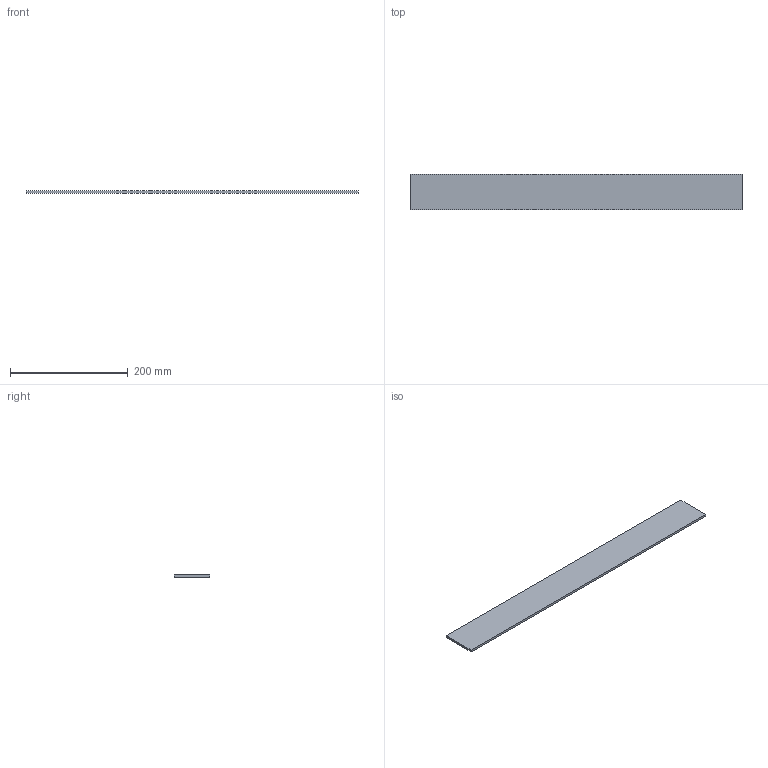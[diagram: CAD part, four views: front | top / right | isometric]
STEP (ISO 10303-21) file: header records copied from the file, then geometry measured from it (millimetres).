
FILE_DESCRIPTION (( 'STEP AP214' ), '1' );
FILE_NAME ('_Variowing Glasdekor NL600.step', '2010-07-14T13:33:38', ( 'grass' ), ( '' ), 'SwSTEP 2.0', 'SolidWorks 2010', '' );
FILE_SCHEMA (( 'AUTOMOTIVE_DESIGN' ));
Length unit declared in the file: millimetre
Products named in the file (1): _Variowing Glasdekor NL600
Bounding box: 565 x 60 x 4 mm (x, y, z)
Volume: 135600 mm3; surface area: 72800 mm2
Topology: 1 solids, 1 shells, 6 faces, 12 edges, 8 vertices
Faces by surface type: plane 6
Entity records: 190 total; most frequent: CARTESIAN_POINT 27, DIRECTION 26, ORIENTED_EDGE 24, LINE 12, VECTOR 12, EDGE_CURVE 12, VERTEX_POINT 8, AXIS2_PLACEMENT_3D 7
